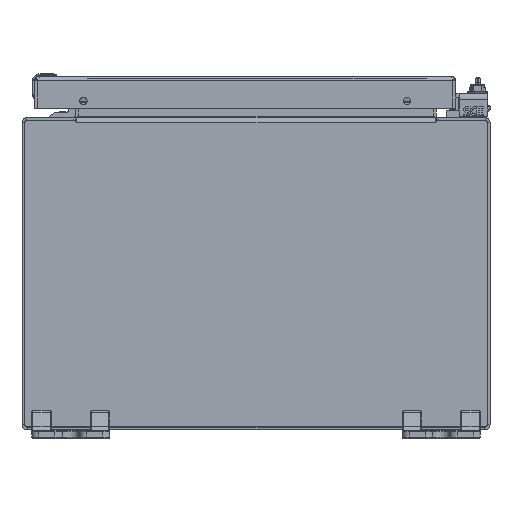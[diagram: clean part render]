
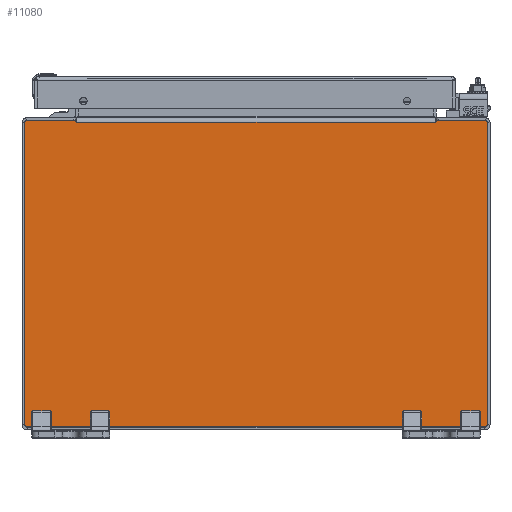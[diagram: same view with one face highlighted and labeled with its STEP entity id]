
A CAD part, front view. The second image highlights one B-rep face of the part: STEP entity #11080.
In plain terms, the highlighted planar face has unit normal (0, -1, 0).
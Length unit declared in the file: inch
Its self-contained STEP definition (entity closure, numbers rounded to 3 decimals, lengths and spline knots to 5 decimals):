
#9863=CARTESIAN_POINT('',(-5.857,0.,3.857));
#9864=DIRECTION('',(0.,-1.,0.));
#9865=DIRECTION('',(0.,0.,1.));
#9866=AXIS2_PLACEMENT_3D('',#9863,#9864,#9865);
#9871=DIRECTION('',(-1.,0.,0.));
#9872=VECTOR('',#9871,1.23388);
#9873=CARTESIAN_POINT('',(-4.62312,0.,3.937));
#9874=LINE('',#9873,#9872);
#9878=DIRECTION('',(0.174,0.,-0.985));
#9879=VECTOR('',#9878,0.05483);
#9880=CARTESIAN_POINT('',(-4.62312,0.,3.937));
#9881=LINE('',#9880,#9879);
#9885=DIRECTION('',(-1.,0.,0.));
#9886=VECTOR('',#9885,0.0156);
#9887=CARTESIAN_POINT('',(-4.598,0.,3.883));
#9888=LINE('',#9887,#9886);
#9892=DIRECTION('',(1.,0.,0.));
#9893=VECTOR('',#9892,0.0156);
#9894=CARTESIAN_POINT('',(4.598,0.,3.883));
#9895=LINE('',#9894,#9893);
#9899=DIRECTION('',(-0.174,0.,-0.985));
#9900=VECTOR('',#9899,0.05483);
#9901=CARTESIAN_POINT('',(4.62312,0.,3.937));
#9902=LINE('',#9901,#9900);
#9906=DIRECTION('',(-1.,0.,0.));
#9907=VECTOR('',#9906,1.23388);
#9908=CARTESIAN_POINT('',(5.857,0.,3.937));
#9909=LINE('',#9908,#9907);
#9913=CARTESIAN_POINT('',(5.857,0.,3.857));
#9914=DIRECTION('',(0.,-1.,0.));
#9915=DIRECTION('',(1.,0.,0.));
#9916=AXIS2_PLACEMENT_3D('',#9913,#9914,#9915);
#9921=DIRECTION('',(0.,0.,1.));
#9922=VECTOR('',#9921,7.714);
#9923=CARTESIAN_POINT('',(5.937,0.,-3.857));
#9924=LINE('',#9923,#9922);
#9928=CARTESIAN_POINT('',(5.857,0.,-3.857));
#9929=DIRECTION('',(0.,-1.,0.));
#9930=DIRECTION('',(0.,0.,-1.));
#9931=AXIS2_PLACEMENT_3D('',#9928,#9929,#9930);
#9936=DIRECTION('',(1.,0.,0.));
#9937=VECTOR('',#9936,11.714);
#9938=CARTESIAN_POINT('',(-5.857,0.,-3.937));
#9939=LINE('',#9938,#9937);
#9943=CARTESIAN_POINT('',(-5.857,0.,-3.857));
#9944=DIRECTION('',(0.,-1.,0.));
#9945=DIRECTION('',(-1.,0.,0.));
#9946=AXIS2_PLACEMENT_3D('',#9943,#9944,#9945);
#9951=DIRECTION('',(0.,0.,-1.));
#9952=VECTOR('',#9951,7.714);
#9953=CARTESIAN_POINT('',(-5.937,0.,3.857));
#9954=LINE('',#9953,#9952);
#10232=DIRECTION('',(1.,0.,0.));
#10233=VECTOR('',#10232,9.196);
#10234=CARTESIAN_POINT('',(-4.598,0.,3.883));
#10235=LINE('',#10234,#10233);
#10893=CARTESIAN_POINT('',(4.598,0.,3.883));
#10894=CARTESIAN_POINT('',(4.6136,0.,3.883));
#10895=VERTEX_POINT('',#10893);
#10896=VERTEX_POINT('',#10894);
#10897=CARTESIAN_POINT('',(4.62312,0.,3.937));
#10898=VERTEX_POINT('',#10897);
#10905=CARTESIAN_POINT('',(-4.598,0.,3.883));
#10906=CARTESIAN_POINT('',(-4.6136,0.,3.883));
#10907=VERTEX_POINT('',#10905);
#10908=VERTEX_POINT('',#10906);
#10909=CARTESIAN_POINT('',(-4.62312,0.,3.937));
#10910=VERTEX_POINT('',#10909);
#10969=CARTESIAN_POINT('',(-5.857,0.,3.937));
#10970=CARTESIAN_POINT('',(-5.937,0.,3.857));
#10971=VERTEX_POINT('',#10969);
#10972=VERTEX_POINT('',#10970);
#10977=CARTESIAN_POINT('',(-5.937,0.,-3.857));
#10978=CARTESIAN_POINT('',(-5.857,0.,-3.937));
#10979=VERTEX_POINT('',#10977);
#10980=VERTEX_POINT('',#10978);
#10985=CARTESIAN_POINT('',(5.857,0.,-3.937));
#10986=CARTESIAN_POINT('',(5.937,0.,-3.857));
#10987=VERTEX_POINT('',#10985);
#10988=VERTEX_POINT('',#10986);
#10993=CARTESIAN_POINT('',(5.937,0.,3.857));
#10994=CARTESIAN_POINT('',(5.857,0.,3.937));
#10995=VERTEX_POINT('',#10993);
#10996=VERTEX_POINT('',#10994);
#11045=CARTESIAN_POINT('',(0.,0.,0.));
#11046=DIRECTION('',(0.,-1.,0.));
#11047=DIRECTION('',(-1.,0.,0.));
#11048=AXIS2_PLACEMENT_3D('',#11045,#11046,#11047);
#11049=PLANE('',#11048);
#11051=ORIENTED_EDGE('',*,*,#11050,.F.);
#11053=ORIENTED_EDGE('',*,*,#11052,.F.);
#11055=ORIENTED_EDGE('',*,*,#11054,.T.);
#11057=ORIENTED_EDGE('',*,*,#11056,.F.);
#11059=ORIENTED_EDGE('',*,*,#11058,.T.);
#11061=ORIENTED_EDGE('',*,*,#11060,.T.);
#11063=ORIENTED_EDGE('',*,*,#11062,.F.);
#11065=ORIENTED_EDGE('',*,*,#11064,.F.);
#11067=ORIENTED_EDGE('',*,*,#11066,.F.);
#11069=ORIENTED_EDGE('',*,*,#11068,.F.);
#11071=ORIENTED_EDGE('',*,*,#11070,.F.);
#11073=ORIENTED_EDGE('',*,*,#11072,.F.);
#11075=ORIENTED_EDGE('',*,*,#11074,.F.);
#11077=ORIENTED_EDGE('',*,*,#11076,.F.);
#11078=EDGE_LOOP('',(#11051,#11053,#11055,#11057,#11059,#11061,#11063,#11065,
#11067,#11069,#11071,#11073,#11075,#11077));
#11079=FACE_OUTER_BOUND('',#11078,.F.);
#9867=CIRCLE('',#9866,0.08);
#9917=CIRCLE('',#9916,0.08);
#9932=CIRCLE('',#9931,0.08);
#9947=CIRCLE('',#9946,0.08);
#11050=EDGE_CURVE('',#10971,#10972,#9867,.T.);
#11052=EDGE_CURVE('',#10910,#10971,#9874,.T.);
#11054=EDGE_CURVE('',#10910,#10908,#9881,.T.);
#11056=EDGE_CURVE('',#10907,#10908,#9888,.T.);
#11058=EDGE_CURVE('',#10907,#10895,#10235,.T.);
#11060=EDGE_CURVE('',#10895,#10896,#9895,.T.);
#11062=EDGE_CURVE('',#10898,#10896,#9902,.T.);
#11064=EDGE_CURVE('',#10996,#10898,#9909,.T.);
#11066=EDGE_CURVE('',#10995,#10996,#9917,.T.);
#11068=EDGE_CURVE('',#10988,#10995,#9924,.T.);
#11070=EDGE_CURVE('',#10987,#10988,#9932,.T.);
#11072=EDGE_CURVE('',#10980,#10987,#9939,.T.);
#11074=EDGE_CURVE('',#10979,#10980,#9947,.T.);
#11076=EDGE_CURVE('',#10972,#10979,#9954,.T.);
#11080=ADVANCED_FACE('',(#11079),#11049,.T.);
